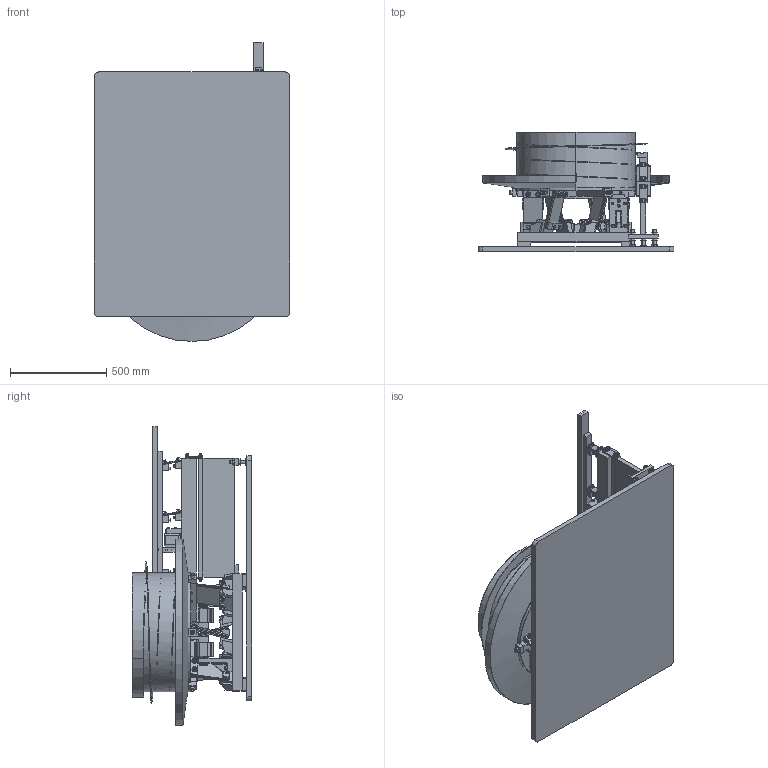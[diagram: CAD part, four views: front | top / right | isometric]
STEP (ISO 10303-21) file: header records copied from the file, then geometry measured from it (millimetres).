
FILE_DESCRIPTION (( 'STEP AP203' ), '1' );
FILE_NAME ('CW24B-36T-P.STEP', '2014-01-09T19:27:39', ( '' ), ( '' ), 'SwSTEP 2.0', 'SolidWorks 2013', '' );
FILE_SCHEMA (( 'CONFIG_CONTROL_DESIGN' ));
Length unit declared in the file: inch
Products named in the file (30): S-I-COIL; S-I-SPRING-CLAMP; S-I-SPRING-SPACER; BOWL_24"; S-I-27-RISER PLATE_6.5"; S-I-COIL-BLOCK; hex jam nut_ai_HJNUT 0.7500-16-D-N; MFS-S-I-27 INLINE_6.5; S-I-REAR-FOOT; S-I-27-DRIVE BAR; S-I-SPRING; 24-CW-BASE-DRIVE; S-1-E-LAM; S-I-ADJ-FOOT-LEVELER; socket head cap screw_ai_HX-SHCS 0.25-20x1.375x1.375-N; COIL-POTTING; S-I-FRONT-FOOT; S-I-27-SUB PLATE; socket head cap screw_ai_HX-SHCS 0.3125-18x3.75x1.125-N; socket head cap screw_ai_HX-SHCS 0.3125-18x1x1-N; CW24B-36T-P; MFS TRACK_36"; hex washer screw_ai_IN-HWMS 0.375-16x2x1.5-N; S-I-LAM-WELDMENT; socket head cap screw_ai_HX-SHCS 0.3125-18x1.125x1.125-N; S-I-LAM-MOUNTING-BLOCK; S-I-27-MASS BAR; MFS PLATE_24"; socket head cap screw_ai_HX-SHCS 0.25-20x1.5x1-N; S-1-SPRING BLOCK
Assembly tree (98 placements, depth 4):
  CW24B-36T-P
    BOWL_24"
    MFS PLATE_24"
    MFS TRACK_36"
    24-CW-BASE-DRIVE
    MFS-S-I-27 INLINE_6.5
      S-I-27-SUB PLATE
      S-I-27-DRIVE BAR
      S-I-27-MASS BAR
      S-I-SPRING-SPACER  x14
      S-I-SPRING  x10
      S-I-SPRING-CLAMP  x10
      S-1-SPRING BLOCK  x6
      S-I-COIL-BLOCK
      S-I-COIL
        COIL-POTTING
        S-1-E-LAM
      S-I-LAM-MOUNTING-BLOCK
      S-I-LAM-WELDMENT
      S-I-27-RISER PLATE_6.5"
      S-I-REAR-FOOT
      S-I-FRONT-FOOT
      S-I-ADJ-FOOT-LEVELER  x3
      hex jam nut_ai_HJNUT 0.7500-16-D-N  x6
      socket head cap screw_ai_HX-SHCS 0.3125-18x1x1-N  x8
      socket head cap screw_ai_HX-SHCS 0.25-20x1.375x1.375-N  x2
      socket head cap screw_ai_HX-SHCS 0.3125-18x3.75x1.125-N  x2
      socket head cap screw_ai_HX-SHCS 0.25-20x1.5x1-N  x2
      hex washer screw_ai_IN-HWMS 0.375-16x2x1.5-N  x6
      socket head cap screw_ai_HX-SHCS 0.3125-18x1.125x1.125-N  x12
Bounding box: 1016 x 620.76 x 1549.4 mm (x, y, z)
Volume: 47811089.3 mm3; surface area: 10103067.2 mm2
Topology: 95 solids, 281 shells, 3089 faces, 8313 edges, 5443 vertices
Faces by surface type: plane 1682, cylinder 827, cone 501, torus 60, bspline 11, sphere 8
Entity records: 69077 total; most frequent: CARTESIAN_POINT 14559, DIRECTION 10786, ORIENTED_EDGE 8754, EDGE_CURVE 5348, VERTEX_POINT 3710, AXIS2_PLACEMENT_3D 3705, VECTOR 3376, LINE 3376
